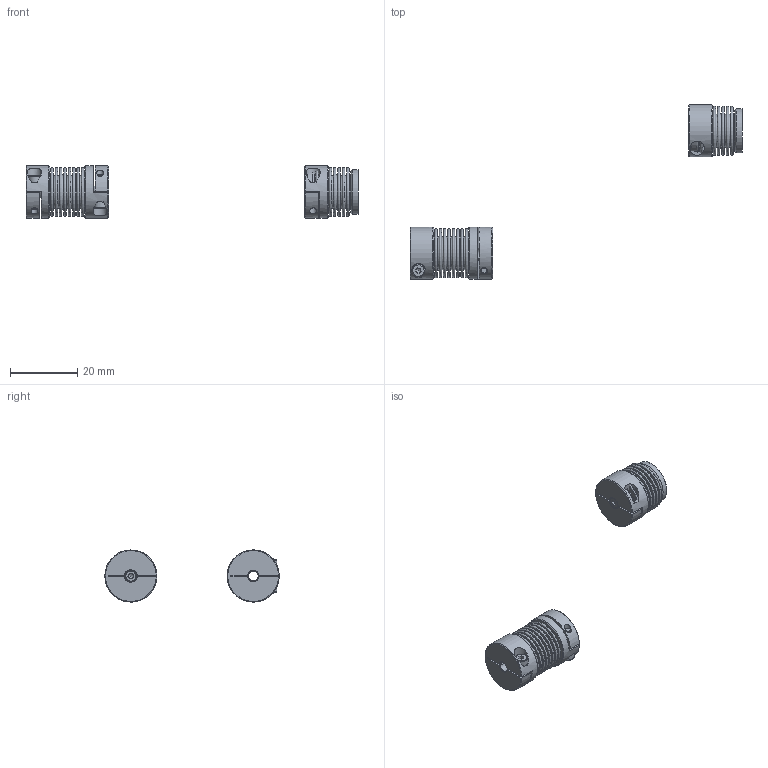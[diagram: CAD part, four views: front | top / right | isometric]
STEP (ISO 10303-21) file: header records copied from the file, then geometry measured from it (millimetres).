
FILE_DESCRIPTION( ( 'Unknown' ), '1' );
FILE_NAME( 'C:/Dokumente und Einstellungen/Sven/Desktop/cad - homepage/KB2/KB2-5-25.stp', 'Unknown', ( 'Unknown' ), ( 'Unknown' ), 'XStep 1.0', 'Unknown', ' ' );
FILE_SCHEMA( ( 'automotive_design' ) );
Length unit declared in the file: millimetre
Products named in the file (4): Assem1; Socket Head Cap Screw_DIN_DIN 912 M2 x 8 --- 8N_3; BM5_Standard; KN5_Standard_0
Bounding box: 98.79 x 51.89 x 15.5 mm (x, y, z)
Volume: 3960.3 mm3; surface area: 11290.4 mm2
Topology: 8 solids, 8 shells, 292 faces, 572 edges, 371 vertices
Faces by surface type: plane 154, torus 82, cylinder 38, cone 18
Full cylindrical faces by diameter (mm): 2 x6, 2.2 x3, 3 x3, 3.8 x3, 12.9 x4, 13.1 x4, 15.5 x3
Entity records: 3173 total; most frequent: CARTESIAN_POINT 559, DIRECTION 538, ORIENTED_EDGE 344, AXIS2_PLACEMENT_3D 246, EDGE_LOOP 222, FACE_OUTER_BOUND 174, EDGE_CURVE 172, VERTEX_POINT 145
